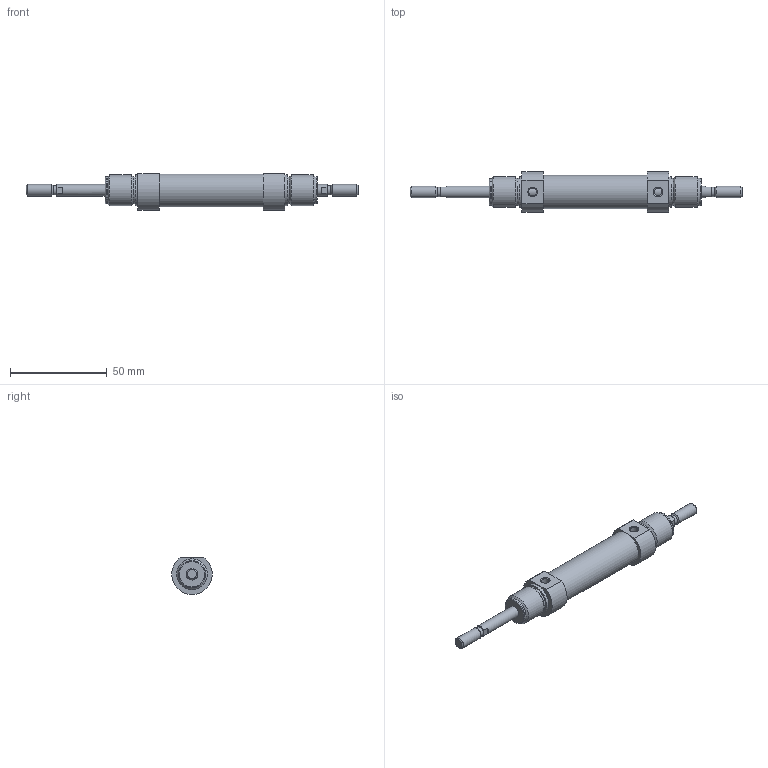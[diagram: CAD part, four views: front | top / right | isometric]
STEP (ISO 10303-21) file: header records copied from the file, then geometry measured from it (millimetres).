
FILE_DESCRIPTION( ( 'STEP AP203' ), '1' );
FILE_NAME( '//expscmdclustefs.cadenas.external/client_exchange/iodir/jobs/output/wkb68411584_no0/STEP/M101-016-0020--__0__2_03.stp', ' ', ( ' ' ), ( ' ' ), 'PSStep 15.0.47', 'PARTsolutions', ' ' );
FILE_SCHEMA( ( 'CONFIG_CONTROL_DESIGN' ) );
Length unit declared in the file: millimetre
Products named in the file (3): M101-016-0020-- [0]; HI_M101-016-0020---[0]-z; HI_M101-016-0020---[0]-k
Assembly tree (2 placements, depth 2):
  M101-016-0020-- [0]
    HI_M101-016-0020---[0]-z
    HI_M101-016-0020---[0]-k
Bounding box: 172 x 20.94 x 19.09 mm (x, y, z)
Volume: 24566.5 mm3; surface area: 14042.6 mm2
Topology: 2 solids, 2 shells, 67 faces, 135 edges, 82 vertices
Faces by surface type: plane 28, cylinder 23, cone 14, torus 2
Full cylindrical faces by diameter (mm): 4.134 x2, 4.773 x2, 6 x6, 14.16 x4, 16 x6, 17.3 x1
Entity records: 1730 total; most frequent: CARTESIAN_POINT 334, DIRECTION 292, ORIENTED_EDGE 196, AXIS2_PLACEMENT_3D 132, EDGE_LOOP 116, EDGE_CURVE 98, FACE_OUTER_BOUND 90, VERTEX_POINT 78
